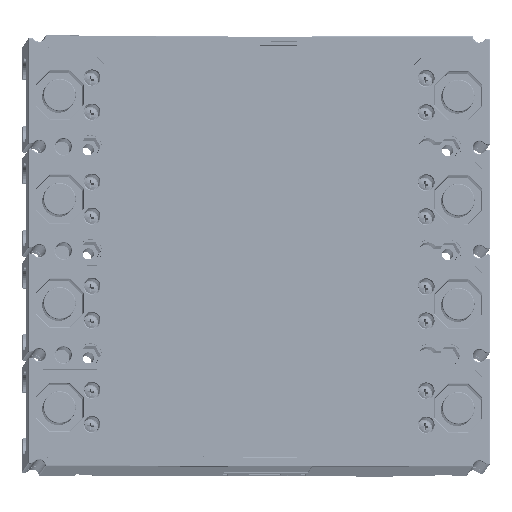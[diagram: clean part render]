
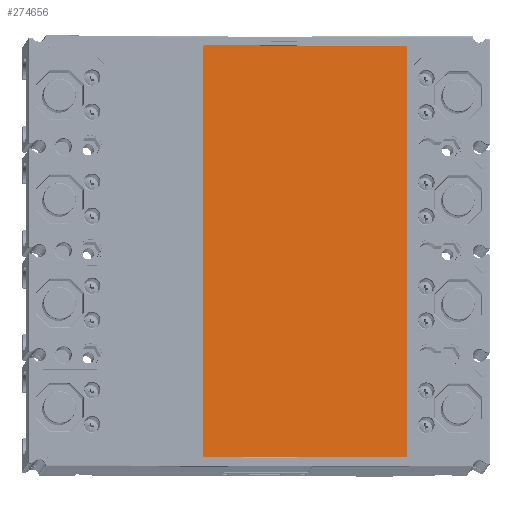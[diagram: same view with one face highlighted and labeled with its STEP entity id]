
A CAD part, front view. The second image highlights one B-rep face of the part: STEP entity #274656.
In plain terms, the highlighted planar face has unit normal (0.037, -0.998, 0.053) as drawn and (0, 1, 0) by its records, which use the part's own axes.
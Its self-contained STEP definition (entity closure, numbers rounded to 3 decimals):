
#274437=CARTESIAN_POINT('',(-114.1,0.5,56.25));
#274438=DIRECTION('',(0.,-1.,0.));
#274439=DIRECTION('',(0.,0.,1.));
#274440=AXIS2_PLACEMENT_3D('',#274437,#274438,#274439);
#274442=DIRECTION('',(0.,0.,-1.));
#274443=VECTOR('',#274442,112.5);
#274444=CARTESIAN_POINT('',(-114.6,0.5,56.25));
#274445=LINE('',#274444,#274443);
#274446=CARTESIAN_POINT('',(-114.1,0.5,-56.25));
#274447=DIRECTION('',(0.,-1.,0.));
#274448=DIRECTION('',(-1.,0.,0.));
#274449=AXIS2_PLACEMENT_3D('',#274446,#274447,#274448);
#274451=DIRECTION('',(1.,0.,0.));
#274452=VECTOR('',#274451,228.2);
#274453=CARTESIAN_POINT('',(-114.1,0.5,-56.75));
#274454=LINE('',#274453,#274452);
#274455=CARTESIAN_POINT('',(114.1,0.5,-56.25));
#274456=DIRECTION('',(0.,-1.,0.));
#274457=DIRECTION('',(0.,0.,-1.));
#274458=AXIS2_PLACEMENT_3D('',#274455,#274456,#274457);
#274460=DIRECTION('',(0.,0.,1.));
#274461=VECTOR('',#274460,112.5);
#274462=CARTESIAN_POINT('',(114.6,0.5,-56.25));
#274463=LINE('',#274462,#274461);
#274464=CARTESIAN_POINT('',(114.1,0.5,56.25));
#274465=DIRECTION('',(0.,-1.,0.));
#274466=DIRECTION('',(1.,0.,0.));
#274467=AXIS2_PLACEMENT_3D('',#274464,#274465,#274466);
#274469=DIRECTION('',(-1.,0.,0.));
#274470=VECTOR('',#274469,228.2);
#274471=CARTESIAN_POINT('',(114.1,0.5,56.75));
#274472=LINE('',#274471,#274470);
#274489=CARTESIAN_POINT('',(-114.6,0.5,56.25));
#274490=VERTEX_POINT('',#274489);
#274491=CARTESIAN_POINT('',(-114.1,0.5,56.75));
#274492=VERTEX_POINT('',#274491);
#274493=CARTESIAN_POINT('',(-114.6,0.5,-56.25));
#274494=VERTEX_POINT('',#274493);
#274495=CARTESIAN_POINT('',(-114.1,0.5,-56.75));
#274496=VERTEX_POINT('',#274495);
#274497=CARTESIAN_POINT('',(114.1,0.5,-56.75));
#274498=VERTEX_POINT('',#274497);
#274499=CARTESIAN_POINT('',(114.6,0.5,-56.25));
#274500=VERTEX_POINT('',#274499);
#274501=CARTESIAN_POINT('',(114.6,0.5,56.25));
#274502=VERTEX_POINT('',#274501);
#274503=CARTESIAN_POINT('',(114.1,0.5,56.75));
#274504=VERTEX_POINT('',#274503);
#274641=CARTESIAN_POINT('',(0.,0.5,0.));
#274642=DIRECTION('',(0.,1.,0.));
#274643=DIRECTION('',(1.,0.,0.));
#274644=AXIS2_PLACEMENT_3D('',#274641,#274642,#274643);
#274645=PLANE('',#274644);
#274646=ORIENTED_EDGE('',*,*,#274537,.T.);
#274647=ORIENTED_EDGE('',*,*,#274553,.T.);
#274648=ORIENTED_EDGE('',*,*,#274566,.T.);
#274649=ORIENTED_EDGE('',*,*,#274581,.T.);
#274650=ORIENTED_EDGE('',*,*,#274594,.T.);
#274651=ORIENTED_EDGE('',*,*,#274607,.T.);
#274652=ORIENTED_EDGE('',*,*,#274622,.T.);
#274653=ORIENTED_EDGE('',*,*,#274634,.T.);
#274654=EDGE_LOOP('',(#274646,#274647,#274648,#274649,#274650,#274651,#274652,
#274653));
#274655=FACE_OUTER_BOUND('',#274654,.F.);
#274656=ADVANCED_FACE('',(#274655),#274645,.T.);
#274441=CIRCLE('',#274440,0.5);
#274450=CIRCLE('',#274449,0.5);
#274459=CIRCLE('',#274458,0.5);
#274468=CIRCLE('',#274467,0.5);
#274537=EDGE_CURVE('',#274492,#274490,#274441,.T.);
#274553=EDGE_CURVE('',#274490,#274494,#274445,.T.);
#274566=EDGE_CURVE('',#274494,#274496,#274450,.T.);
#274581=EDGE_CURVE('',#274496,#274498,#274454,.T.);
#274594=EDGE_CURVE('',#274498,#274500,#274459,.T.);
#274607=EDGE_CURVE('',#274500,#274502,#274463,.T.);
#274622=EDGE_CURVE('',#274502,#274504,#274468,.T.);
#274634=EDGE_CURVE('',#274504,#274492,#274472,.T.);
